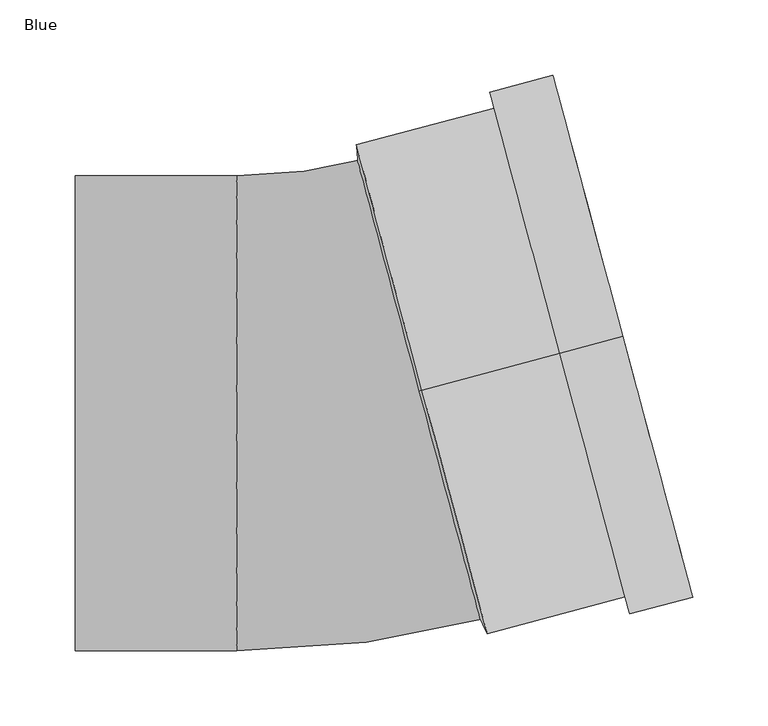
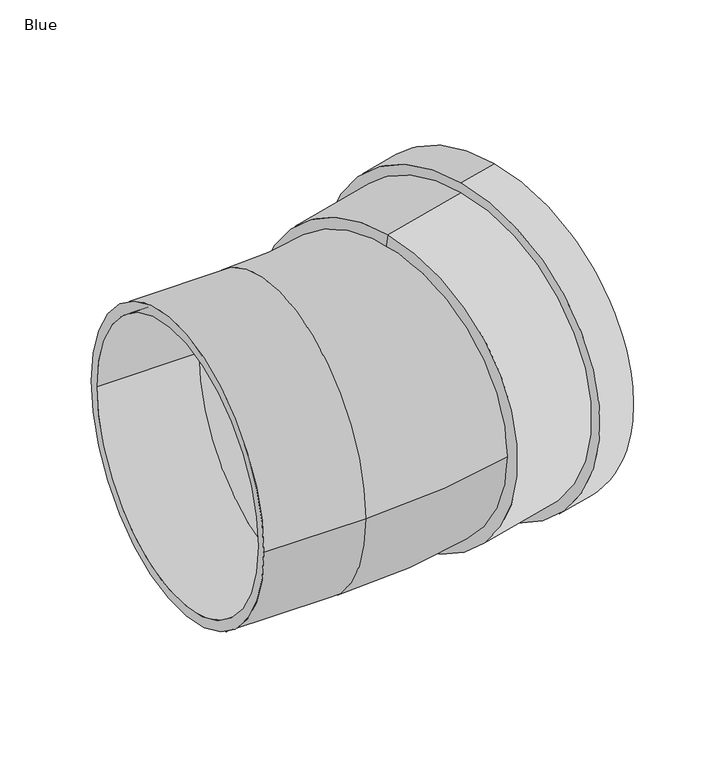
"""IFC4 building model written with IfcOpenShell, lengths in millimetres: pipe fitting geometry, AWADUKT PP SN10 Bend : Blue."""

from ifc_helpers import new_model, si_unit, point, frame, origin, place, context, project, spatial, polyline, circle_curve, ellipse_curve, trimmed, source, transform, mapped, element, save
from ifc_brep_helpers import plane_surface, cylinder_surface, revolved_surface, advanced_brep


def blue_ad261573(model_context):
    return source(origin(), model_context, "Body", "AdvancedBrep", [
        advanced_brep(
        [(148.2696143, 39.7287234, 168.3), (148.2696143, 39.7287234, -168.3), (56.837061, 15.2294446, -168.3), (56.837061, 15.2294446, 168.3), (189.99761, 50.9097062, 179.1), (189.99761, 50.9097062, -179.1), (148.2696143, 39.7287234, -179.1), (148.2696143, 39.7287234, 179.1), (179.5656111, 48.1144605, 157.5), (179.5656111, 48.1144605, -157.5), (189.99761, 50.9097062, -157.5), (189.99761, 50.9097062, 157.5), (158.7016133, 42.5239691, 168.3), (158.7016133, 42.5239691, -168.3), (179.5656111, 48.1144605, -168.3), (179.5656111, 48.1144605, 168.3), (65.5905474, 17.5749342, 157.5), (65.5905474, 17.5749342, -157.5), (158.7016133, 42.5239691, -157.5), (158.7016133, 42.5239691, 157.5), (63.7511045, 17.082057, 146.7), (63.7511045, 17.082057, -146.7), (53.1581752, 14.2436901, 146.7), (53.1581752, 14.2436901, -146.7)],
        [
            (0, 1, circle_curve(frame((148.2696143, 39.7287234, 0.0), z_axis=(-0.9659258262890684, -0.2588190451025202, 0.0), x_axis=(0.0, 0.0, -1.0)), 168.3)),
            (1, 2),
            (2, 3, circle_curve(frame((56.837061, 15.2294446, 0.0), z_axis=(0.9659258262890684, 0.2588190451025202, 0.0), x_axis=(0.0, 0.0, -1.0)), 168.3)),
            (3, 0),
            (4, 5, circle_curve(frame((189.99761, 50.9097062, 0.0), z_axis=(-0.9659258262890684, -0.2588190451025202, 0.0), x_axis=(0.0, 0.0, -1.0)), 179.1)),
            (5, 6),
            (6, 7, circle_curve(frame((148.2696143, 39.7287234, 0.0), z_axis=(0.9659258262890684, 0.2588190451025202, 0.0), x_axis=(0.0, 0.0, -1.0)), 179.1)),
            (7, 4),
            (8, 9, circle_curve(frame((179.5656111, 48.1144605, 0.0), z_axis=(-0.9659258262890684, -0.2588190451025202, 0.0), x_axis=(0.0, 0.0, -1.0)), 157.5)),
            (9, 10),
            (10, 11, circle_curve(frame((189.99761, 50.9097062, 0.0), z_axis=(0.9659258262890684, 0.2588190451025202, 0.0), x_axis=(0.0, 0.0, -1.0)), 157.5)),
            (11, 8),
            (12, 13, circle_curve(frame((158.7016133, 42.5239691, 0.0), z_axis=(-0.9659258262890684, -0.2588190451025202, 0.0), x_axis=(0.0, 0.0, -1.0)), 168.3)),
            (13, 14),
            (14, 15, circle_curve(frame((179.5656111, 48.1144605, 0.0), z_axis=(0.9659258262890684, 0.2588190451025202, 0.0), x_axis=(0.0, 0.0, -1.0)), 168.3)),
            (15, 12),
            (16, 17, circle_curve(frame((65.5905474, 17.5749342, 0.0), z_axis=(-0.9659258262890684, -0.2588190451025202, 0.0), x_axis=(0.0, 0.0, -1.0)), 157.5)),
            (17, 18),
            (18, 19, circle_curve(frame((158.7016133, 42.5239691, 0.0), z_axis=(0.9659258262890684, 0.2588190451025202, 0.0), x_axis=(0.0, 0.0, -1.0)), 157.5)),
            (19, 16),
            (20, 21, circle_curve(frame((63.7511045, 17.082057, 0.0), z_axis=(-0.9659258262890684, -0.2588190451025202, 0.0), x_axis=(0.0, 0.0, -1.0)), 146.7)),
            (21, 17),
            (16, 20),
            (22, 23, circle_curve(frame((53.1581752, 14.2436901, 0.0), z_axis=(-0.9659258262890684, -0.2588190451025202, 0.0), x_axis=(0.0, 0.0, -1.0)), 146.7)),
            (23, 21),
            (20, 22),
            (2, 23),
            (22, 3),
            (1, 0, circle_curve(frame((148.2696143, 39.7287234, 0.0), z_axis=(-0.9659258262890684, -0.2588190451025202, 0.0), x_axis=(0.0, 0.0, 1.0)), 168.3)),
            (3, 2, circle_curve(frame((56.837061, 15.2294446, 0.0), z_axis=(0.9659258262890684, 0.2588190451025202, 0.0), x_axis=(0.0, 0.0, 1.0)), 168.3)),
            (6, 7, circle_curve(frame((148.2696143, 39.7287234, 0.0), z_axis=(-0.9659258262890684, -0.2588190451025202, 0.0), x_axis=(0.0, 0.0, 1.0)), 179.1)),
            (5, 4, circle_curve(frame((189.99761, 50.9097062, 0.0), z_axis=(-0.9659258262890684, -0.2588190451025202, 0.0), x_axis=(0.0, 0.0, 1.0)), 179.1)),
            (10, 11, circle_curve(frame((189.99761, 50.9097062, 0.0), z_axis=(-0.9659258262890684, -0.2588190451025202, 0.0), x_axis=(0.0, 0.0, 1.0)), 157.5)),
            (9, 8, circle_curve(frame((179.5656111, 48.1144605, 0.0), z_axis=(-0.9659258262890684, -0.2588190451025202, 0.0), x_axis=(0.0, 0.0, 1.0)), 157.5)),
            (14, 15, circle_curve(frame((179.5656111, 48.1144605, 0.0), z_axis=(-0.9659258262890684, -0.2588190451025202, 0.0), x_axis=(0.0, 0.0, 1.0)), 168.3)),
            (13, 12, circle_curve(frame((158.7016133, 42.5239691, 0.0), z_axis=(-0.9659258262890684, -0.2588190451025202, 0.0), x_axis=(0.0, 0.0, 1.0)), 168.3)),
            (18, 19, circle_curve(frame((158.7016133, 42.5239691, 0.0), z_axis=(-0.9659258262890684, -0.2588190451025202, 0.0), x_axis=(0.0, 0.0, 1.0)), 157.5)),
            (17, 16, circle_curve(frame((65.5905474, 17.5749342, 0.0), z_axis=(-0.9659258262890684, -0.2588190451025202, 0.0), x_axis=(0.0, 0.0, 1.0)), 157.5)),
            (21, 20, circle_curve(frame((63.7511045, 17.082057, 0.0), z_axis=(-0.9659258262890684, -0.2588190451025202, 0.0), x_axis=(0.0, 0.0, 1.0)), 146.7)),
            (23, 22, circle_curve(frame((53.1581752, 14.2436901, 0.0), z_axis=(-0.9659258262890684, -0.2588190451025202, 0.0), x_axis=(0.0, 0.0, 1.0)), 146.7)),
        ],
        [
            cylinder_surface(frame((63.7511045, 17.082057, 0.0), z_axis=(0.9659258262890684, 0.2588190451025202, 0.0), x_axis=(0.0, 0.0, -1.0)), 168.3),
            cylinder_surface(frame((63.7511045, 17.082057, 0.0), z_axis=(0.9659258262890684, 0.2588190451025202, 0.0), x_axis=(0.0, 0.0, -1.0)), 179.1),
            revolved_surface(polyline([(189.99761000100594, 50.90970619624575, -157.5), (179.5656110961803, 48.11446051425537, -157.5)]), (63.7511045, 17.082057, 0.0), (0.9659258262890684, 0.2588190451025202, 0.0)),
            revolved_surface(polyline([(179.5656110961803, 48.11446051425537, -168.3), (158.70161328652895, 42.523969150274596, -168.3)]), (63.7511045, 17.082057, 0.0), (0.9659258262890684, 0.2588190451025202, 0.0)),
            revolved_surface(polyline([(158.70161328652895, 42.523969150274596, -157.5), (65.59054739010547, 17.57493423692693, -157.5)]), (63.7511045, 17.082057, 0.0), (0.9659258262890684, 0.2588190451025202, 0.0)),
            revolved_surface(polyline([(65.5905474, 17.5749342, -157.5), (63.7511045, 17.082057, -146.7)]), (63.7511045, 17.082057, 0.0), (0.9659258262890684, 0.2588190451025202, 0.0)),
            revolved_surface(polyline([(63.7511045, 17.082057, -146.7), (53.15817518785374, 14.243690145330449, -146.7)]), (63.7511045, 17.082057, 0.0), (0.9659258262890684, 0.2588190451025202, 0.0)),
            revolved_surface(polyline([(53.1581752, 14.2436901, -146.7), (56.837061, 15.2294446, -168.3)]), (63.7511045, 17.082057, 0.0), (0.9659258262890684, 0.2588190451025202, 0.0)),
            cylinder_surface(frame((63.7511045, 17.082057, 0.0), z_axis=(0.9659258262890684, 0.2588190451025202, 0.0), x_axis=(0.0, 0.0, 1.0)), 168.3),
            plane_surface(frame((148.2696143, 39.7287234, 0.0), z_axis=(-0.9659258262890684, -0.2588190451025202, 0.0), x_axis=(0.0, 0.0, 1.0))),
            cylinder_surface(frame((63.7511045, 17.082057, 0.0), z_axis=(0.9659258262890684, 0.2588190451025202, 0.0), x_axis=(0.0, 0.0, 1.0)), 179.1),
            plane_surface(frame((189.99761, 50.9097062, 0.0), z_axis=(0.9659258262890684, 0.2588190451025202, 0.0), x_axis=(0.0, 0.0, 1.0))),
            revolved_surface(polyline([(189.99761000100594, 50.90970619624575, 157.5), (179.5656110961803, 48.11446051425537, 157.5)]), (63.7511045, 17.082057, 0.0), (0.9659258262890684, 0.2588190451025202, 0.0)),
            plane_surface(frame((179.5656111, 48.1144605, 0.0), z_axis=(-0.9659258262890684, -0.2588190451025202, 0.0), x_axis=(0.0, 0.0, 1.0))),
            revolved_surface(polyline([(179.5656110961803, 48.11446051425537, 168.3), (158.70161328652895, 42.523969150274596, 168.3)]), (63.7511045, 17.082057, 0.0), (0.9659258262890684, 0.2588190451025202, 0.0)),
            plane_surface(frame((158.7016133, 42.5239691, 0.0), z_axis=(0.9659258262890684, 0.2588190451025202, 0.0), x_axis=(0.0, 0.0, 1.0))),
            revolved_surface(polyline([(158.70161328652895, 42.523969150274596, 157.5), (65.59054739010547, 17.57493423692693, 157.5)]), (63.7511045, 17.082057, 0.0), (0.9659258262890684, 0.2588190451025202, 0.0)),
            revolved_surface(polyline([(65.5905474, 17.5749342, 157.5), (63.7511045, 17.082057, 146.7)]), (63.7511045, 17.082057, 0.0), (0.9659258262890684, 0.2588190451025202, 0.0)),
            revolved_surface(polyline([(63.7511045, 17.082057, 146.7), (53.15817518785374, 14.243690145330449, 146.7)]), (63.7511045, 17.082057, 0.0), (0.9659258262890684, 0.2588190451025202, 0.0)),
            revolved_surface(polyline([(53.1581752, 14.2436901, 146.7), (56.837061, 15.2294446, 168.3)]), (63.7511045, 17.082057, 0.0), (0.9659258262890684, 0.2588190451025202, 0.0)),
        ],
        [
            (0, [[1, 2, 3, 4]]),
            (1, [[5, 6, 7, 8]]),
            (2, [[9, 10, 11, 12]]),
            (3, [[13, 14, 15, 16]]),
            (4, [[17, 18, 19, 20]]),
            (5, [[21, 22, -17, 23]]),
            (6, [[24, 25, -21, 26]]),
            (7, [[-3, 27, -24, 28]]),
            (8, [[29, -4, 30, -2]]),
            (9, [[31, -7], [-29, -1]]),
            (10, [[32, -8, -31, -6]]),
            (11, [[-32, -5], [33, -11]]),
            (12, [[34, -12, -33, -10]]),
            (13, [[35, -15], [-34, -9]]),
            (14, [[36, -16, -35, -14]]),
            (15, [[-36, -13], [37, -19]]),
            (16, [[38, -20, -37, -18]]),
            (17, [[39, -23, -38, -22]]),
            (18, [[40, -26, -39, -25]]),
            (19, [[-30, -28, -40, -27]]),
        ],
    ),
        advanced_brep(
        [(-173.0, -157.5, 0.0), (-173.0, 157.5, 0.0), (-173.0, -146.7, 0.0), (-173.0, 146.7, 0.0), (104.5151041, -135.0512607, 0.0), (22.9871049, 169.2153746, 0.0), (101.7198585, -124.6192617, 0.0), (25.7823506, 158.7833757, 0.0), (-66.0, -146.7, 0.0), (-66.0, 146.7, 0.0), (-66.0, -157.5, 0.0), (-66.0, 157.5, 0.0)],
        [
            (0, 1, circle_curve(frame((-173.0, 0.0, 0.0), z_axis=(-1.0, 0.0, 0.0), x_axis=(0.0, 1.0, 0.0)), 157.5)),
            (1, 0, circle_curve(frame((-173.0, 0.0, 0.0), z_axis=(-1.0, 0.0, 0.0), x_axis=(0.0, 1.0, 0.0)), 157.5)),
            (2, 3, circle_curve(frame((-173.0, 0.0, 0.0), z_axis=(1.0, 0.0, 0.0), x_axis=(0.0, 1.0, 0.0)), 146.7)),
            (3, 2, circle_curve(frame((-173.0, 0.0, 0.0), z_axis=(1.0, 0.0, 0.0), x_axis=(0.0, 1.0, 0.0)), 146.7)),
            (4, 5, circle_curve(frame((63.7511045, 17.082057, 0.0), z_axis=(0.9659258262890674, 0.25881904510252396, 0.0), x_axis=(-0.25881904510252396, 0.9659258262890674, 0.0)), 157.5)),
            (5, 4, circle_curve(frame((63.7511045, 17.082057, 0.0), z_axis=(0.9659258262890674, 0.25881904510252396, 0.0), x_axis=(-0.25881904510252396, 0.9659258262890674, 0.0)), 157.5)),
            (6, 7, circle_curve(frame((63.7511045, 17.082057, 0.0), z_axis=(-0.9659258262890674, -0.25881904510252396, 0.0), x_axis=(-0.25881904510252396, 0.9659258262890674, 0.0)), 146.7)),
            (7, 6, circle_curve(frame((63.7511045, 17.082057, 0.0), z_axis=(-0.9659258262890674, -0.25881904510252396, 0.0), x_axis=(-0.25881904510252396, 0.9659258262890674, 0.0)), 146.7)),
            (2, 8),
            (8, 9, circle_curve(frame((-66.0, 0.0, 0.0), z_axis=(1.0, 0.0, 0.0), x_axis=(0.0, 1.0, 0.0)), 146.7)),
            (9, 3),
            (9, 8, circle_curve(frame((-66.0, 0.0, 0.0), z_axis=(1.0, 0.0, 0.0), x_axis=(0.0, 1.0, 0.0)), 146.7)),
            (0, 10),
            (10, 11, circle_curve(frame((-66.0, 0.0, 0.0), z_axis=(-1.0, 0.0, 0.0), x_axis=(0.0, 1.0, 0.0)), 157.5)),
            (11, 1),
            (11, 10, circle_curve(frame((-66.0, 0.0, 0.0), z_axis=(-1.0, 0.0, 0.0), x_axis=(0.0, 1.0, 0.0)), 157.5)),
            (7, 9, circle_curve(frame((-66.0, 501.3197714, 0.0), z_axis=(0.0, 0.0, -1.0), x_axis=(0.0, -1.0, 0.0)), 354.6197714)),
            (8, 6, circle_curve(frame((-66.0, 501.3197714, 0.0), z_axis=(0.0, 0.0, 1.0), x_axis=(0.0, -1.0, 0.0)), 648.0197714)),
            (5, 11, circle_curve(frame((-66.0, 501.3197714, 0.0), z_axis=(0.0, 0.0, -1.0), x_axis=(0.0, -1.0, 0.0)), 343.8197714)),
            (10, 4, circle_curve(frame((-66.0, 501.3197714, 0.0), z_axis=(0.0, 0.0, 1.0), x_axis=(0.0, -1.0, 0.0)), 658.8197714)),
        ],
        [
            plane_surface(frame((-173.0, 0.0, 0.0), z_axis=(-1.0, 0.0, 0.0), x_axis=(0.0, 0.0, 1.0))),
            plane_surface(frame((63.7511045, 17.082057, 0.0), z_axis=(0.9659258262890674, 0.25881904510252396, 0.0), x_axis=(0.0, 0.0, 1.0))),
            revolved_surface(polyline([(-66.0, 146.7, 0.0), (-173.0, 146.7, 0.0)]), (-173.0, 0.0, 0.0), (1.0, 0.0, 0.0)),
            cylinder_surface(frame((-173.0, 0.0, 0.0), z_axis=(-1.0, 0.0, 0.0), x_axis=(0.0, 1.0, 0.0)), 157.5),
            revolved_surface(trimmed(ellipse_curve(frame((-66.0, 0.0, 0.0), z_axis=(1.0, 0.0, 0.0), x_axis=(0.0, 1.0, 0.0)), 146.7, 146.7), [point((-66.0, -146.7, 0.0))], [point((-66.0, 146.7, 0.0))], True, "CARTESIAN"), (-66.0, 501.3197714, 0.0), (0.0, 0.0, 1.0)),
            revolved_surface(trimmed(ellipse_curve(frame((-66.0, 0.0, 0.0), z_axis=(1.0, 0.0, 0.0), x_axis=(0.0, 1.0, 0.0)), 146.7, 146.7), [point((-66.0, 146.7, 0.0))], [point((-66.0, -146.7, 0.0))], True, "CARTESIAN"), (-66.0, 501.3197714, 0.0), (0.0, 0.0, 1.0)),
            revolved_surface(trimmed(ellipse_curve(frame((-66.0, 0.0, 0.0), z_axis=(-1.0, 0.0, 0.0), x_axis=(0.0, 1.0, 0.0)), 157.5, 157.5), [point((-66.0, -157.5, 0.0))], [point((-66.0, 157.5, 0.0))], True, "CARTESIAN"), (-66.0, 501.3197714, 0.0), (0.0, 0.0, 1.0)),
            revolved_surface(trimmed(ellipse_curve(frame((-66.0, 0.0, 0.0), z_axis=(-1.0, 0.0, 0.0), x_axis=(0.0, 1.0, 0.0)), 157.5, 157.5), [point((-66.0, 157.5, 0.0))], [point((-66.0, -157.5, 0.0))], True, "CARTESIAN"), (-66.0, 501.3197714, 0.0), (0.0, 0.0, 1.0)),
        ],
        [
            (0, [[1, 2], [3, 4]]),
            (1, [[5, 6], [7, 8]]),
            (2, [[-3, 9, 10, 11]]),
            (2, [[-4, -11, 12, -9]]),
            (3, [[-1, 13, 14, 15]]),
            (3, [[-2, -15, 16, -13]]),
            (4, [[17, -10, 18, -8]]),
            (5, [[-18, -12, -17, -7]]),
            (6, [[19, -14, 20, -6]]),
            (7, [[-20, -16, -19, -5]]),
        ],
    ),
    ])


if __name__ == "__main__":
    model = new_model("IFC4")
    model_context = context("Model", 3, world=origin())
    ifc_project = project(units=[si_unit("LENGTHUNIT", "METRE", prefix="MILLI")], contexts=[model_context])
    site = spatial("IfcSite", under=ifc_project)
    building = spatial("IfcBuilding", under=site)
    placement = place(None, origin())
    blue_shape = blue_ad261573(model_context)
    element("IfcPipeFitting", 1, ObjectType="AWADUKT PP SN10 Bend : Blue", at=placement, inside=building, context=model_context, shape_type="MappedRepresentation", body=[
        mapped(blue_shape, transform((0.0, 0.0, 0.0), x_axis=(1.0, 0.0, 0.0), y_axis=(0.0, 1.0, 0.0), z_axis=(0.0, 0.0, 1.0))),
    ])
    save(model, "model.ifc")
